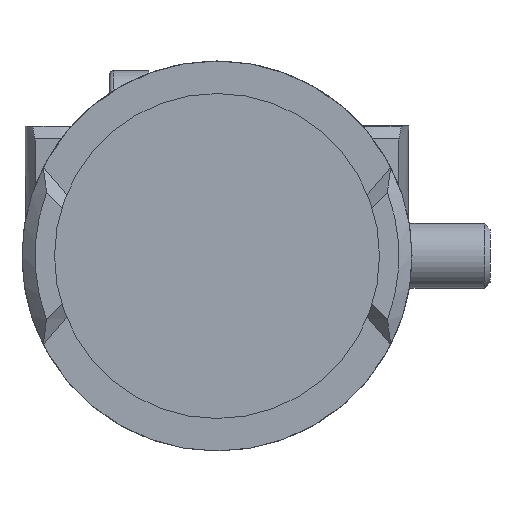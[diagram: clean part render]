
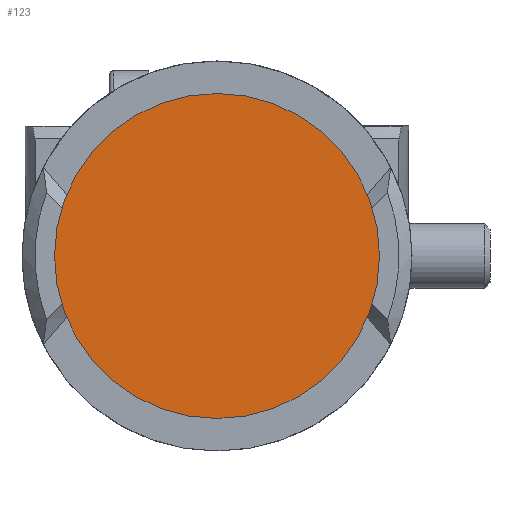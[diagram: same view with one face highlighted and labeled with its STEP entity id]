
A CAD part, front view. The second image highlights one B-rep face of the part: STEP entity #123.
In plain terms, the highlighted planar face has unit normal (0, -1, 0) as drawn and (0, 1, 0) by its records, which use the part's own axes.
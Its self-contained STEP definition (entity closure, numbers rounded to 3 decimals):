
#123 = ADVANCED_FACE( '', ( #231 ), #232, .T. );
#231 = FACE_OUTER_BOUND( '', #352, .T. );
#232 = PLANE( '', #353 );
#352 = EDGE_LOOP( '', ( #646 ) );
#353 = AXIS2_PLACEMENT_3D( '', #647, #648, #649 );
#646 = ORIENTED_EDGE( '', *, *, #1098, .T. );
#647 = CARTESIAN_POINT( '', ( 0., 0., 0. ) );
#648 = DIRECTION( '', ( 0., 1., 0. ) );
#649 = DIRECTION( '', ( 0., 0., 1. ) );
#1098 = EDGE_CURVE( '', #1493, #1493, #1494, .T. );
#1493 = VERTEX_POINT( '', #2577 );
#1494 = CIRCLE( '', #2578, 12.5 );
#2577 = CARTESIAN_POINT( '', ( 0., 0., 12.5 ) );
#2578 = AXIS2_PLACEMENT_3D( '', #2997, #2998, #2999 );
#2997 = CARTESIAN_POINT( '', ( 0., 0., 0. ) );
#2998 = DIRECTION( '', ( 0., 1., 0. ) );
#2999 = DIRECTION( '', ( 0., 0., 1. ) );
